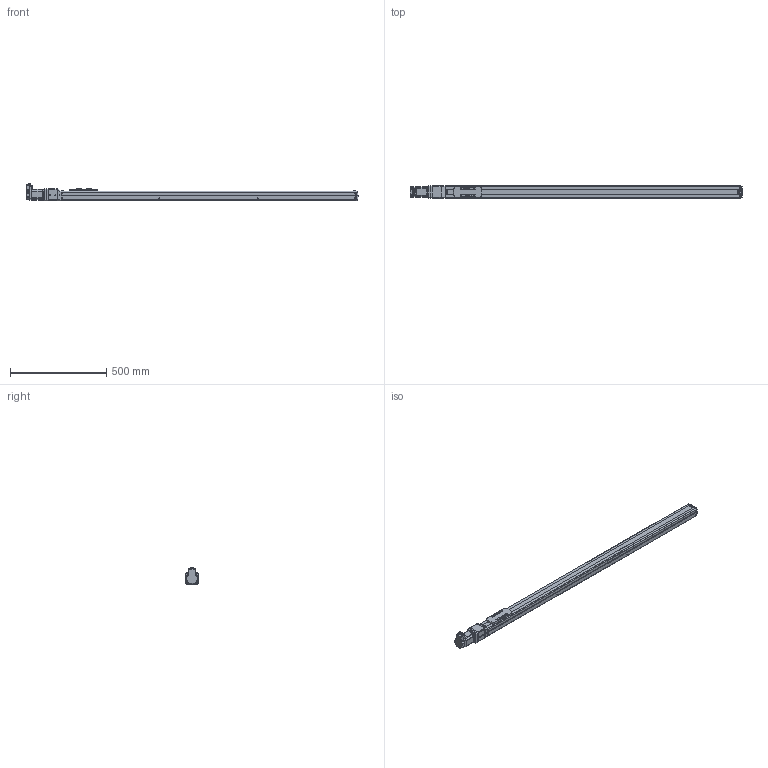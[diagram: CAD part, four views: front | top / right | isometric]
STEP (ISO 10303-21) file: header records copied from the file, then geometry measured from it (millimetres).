
FILE_DESCRIPTION(('FreeCAD Model'),'2;1');
FILE_NAME('Open CASCADE Shape Model','2023-08-02T11:26:36',('Author'),( ''),'Open CASCADE STEP processor 7.5','FreeCAD','Unknown');
FILE_SCHEMA(('AUTOMOTIVE_DESIGN { 1 0 10303 214 1 1 1 1 }'));
Length unit declared in the file: millimetre
Products named in the file (19): RSA1211; 1; 6; 5; 12; 2; 3; 9; 4; 11; 7; 13; 10; 8; Shapes; KSF6-20-1300-0-A0(0); KSF6---(Cover); KSF6-10-0050---(slider); KSF6-20-01300-A0 (01300A0No0)---(body)
Assembly tree (18 placements, depth 3):
  RSA1211
    1
    6
    5
    12
    2
    3
    9
    4
    11
    7
    13
    10
    8
    Shapes
    KSF6-20-1300-0-A0(0)
      KSF6---(Cover)
      KSF6-10-0050---(slider)
      KSF6-20-01300-A0 (01300A0No0)---(body)
Bounding box: 1723 x 66.4 x 93.17 mm (x, y, z)
Volume: 5382931.4 mm3; surface area: 536177.2 mm2
Topology: 17 solids, 17 shells, 1611 faces, 4279 edges, 2811 vertices
Faces by surface type: plane 1151, cylinder 322, cone 75, bspline 32, torus 27, revolution 4
Full cylindrical faces by diameter (mm): 2.113 x8, 2.6 x4, 3 x2, 3.242 x5, 4.134 x4, 4.5 x2, 5 x1, 5.5 x22, 6.5 x4, 9 x1, 9.5 x16, 12 x1, 15.5 x1, 17 x1, 44 x1, 50 x1
Entity records: 112924 total; most frequent: CARTESIAN_POINT 26570, DIRECTION 16072, LINE 10857, VECTOR 10857, ORIENTED_EDGE 8518, PCURVE 8518, DEFINITIONAL_REPRESENTATION 8518, EDGE_CURVE 4259
